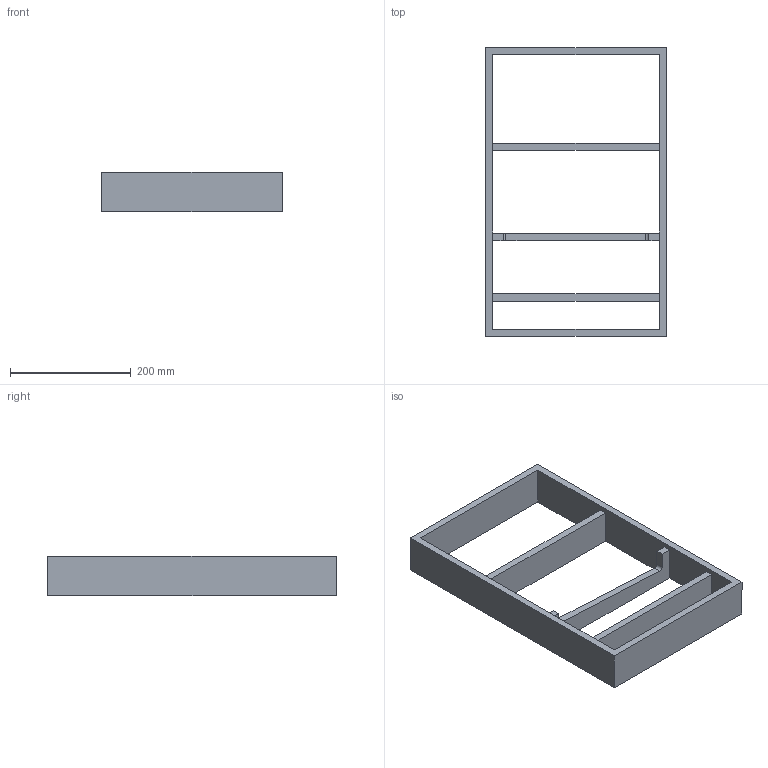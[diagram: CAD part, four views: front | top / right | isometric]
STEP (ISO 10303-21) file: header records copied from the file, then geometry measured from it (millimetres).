
FILE_DESCRIPTION (( 'STEP AP214' ), '1' );
FILE_NAME ('Vario Messer_Modul_H65_NL500_B300_ZE_Alu_Buche.step', '2010-10-07T06:11:53', ( 'grass' ), ( '' ), 'SwSTEP 2.0', 'SolidWorks 2010', '' );
FILE_SCHEMA (( 'AUTOMOTIVE_DESIGN' ));
Length unit declared in the file: millimetre
Products named in the file (1): Vario Messer_Modul_H65_NL500_B300_ZE_Alu_Buche
Bounding box: 300 x 479 x 65 mm (x, y, z)
Volume: 1668777.5 mm3; surface area: 330713.4 mm2
Topology: 1 solids, 1 shells, 25 faces, 78 edges, 52 vertices
Faces by surface type: plane 23, cylinder 2
Entity records: 906 total; most frequent: ORIENTED_EDGE 156, CARTESIAN_POINT 156, DIRECTION 134, EDGE_CURVE 78, LINE 74, VECTOR 74, VERTEX_POINT 52, AXIS2_PLACEMENT_3D 30
